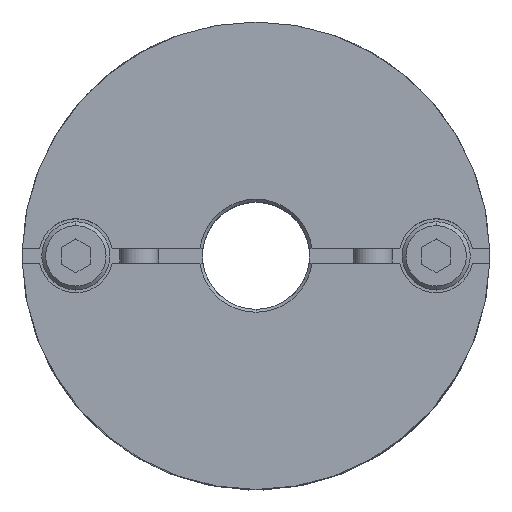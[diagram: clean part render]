
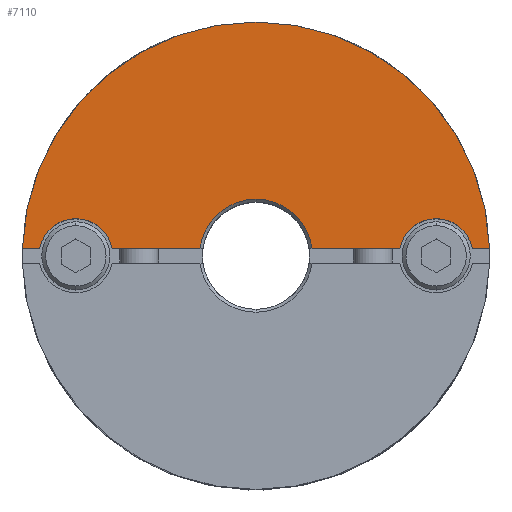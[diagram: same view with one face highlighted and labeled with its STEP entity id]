
A CAD part, top view. The second image highlights one B-rep face of the part: STEP entity #7110.
In plain terms, the highlighted planar face has unit normal (0, 0, 1).
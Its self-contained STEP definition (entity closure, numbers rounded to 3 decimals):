
#553=CARTESIAN_POINT('',(0.,5.8,19.3));
#554=VERTEX_POINT('',#553);
#563=CARTESIAN_POINT('',(-5.751,0.75,19.3));
#564=VERTEX_POINT('',#563);
#565=CARTESIAN_POINT('',(0.,0.,19.3));
#566=DIRECTION('',(0.0,0.0,1.0));
#567=DIRECTION('',(0.0,-1.0,0.0));
#568=AXIS2_PLACEMENT_3D('',#565,#566,#567);
#569=CIRCLE('',#568,5.8);
#570=EDGE_CURVE('',#554,#564,#569,.T.);
#742=CARTESIAN_POINT('',(0.,24.,19.3));
#743=VERTEX_POINT('',#742);
#827=CARTESIAN_POINT('',(-23.988,0.75,19.3));
#828=VERTEX_POINT('',#827);
#835=CARTESIAN_POINT('',(0.,0.,19.3));
#836=DIRECTION('',(0.0,0.0,-1.0));
#837=DIRECTION('',(0.0,1.0,0.0));
#838=AXIS2_PLACEMENT_3D('',#835,#836,#837);
#839=CIRCLE('',#838,24.0);
#840=EDGE_CURVE('',#828,#743,#839,.T.);
#1041=CARTESIAN_POINT('',(-18.5,3.8,19.3));
#1042=VERTEX_POINT('',#1041);
#1051=CARTESIAN_POINT('',(-22.225,0.75,19.3));
#1052=VERTEX_POINT('',#1051);
#1053=CARTESIAN_POINT('',(-18.5,0.,19.3));
#1054=DIRECTION('',(0.0,0.0,-1.0));
#1055=DIRECTION('',(0.0,1.0,0.0));
#1056=AXIS2_PLACEMENT_3D('',#1053,#1054,#1055);
#1057=CIRCLE('',#1056,3.8);
#1058=EDGE_CURVE('',#1052,#1042,#1057,.T.);
#1125=CARTESIAN_POINT('',(18.5,3.8,19.3));
#1126=VERTEX_POINT('',#1125);
#1135=CARTESIAN_POINT('',(14.775,0.75,19.3));
#1136=VERTEX_POINT('',#1135);
#1137=CARTESIAN_POINT('',(18.5,0.,19.3));
#1138=DIRECTION('',(0.0,0.0,-1.0));
#1139=DIRECTION('',(0.0,1.0,0.0));
#1140=AXIS2_PLACEMENT_3D('',#1137,#1138,#1139);
#1141=CIRCLE('',#1140,3.8);
#1142=EDGE_CURVE('',#1136,#1126,#1141,.T.);
#6786=CARTESIAN_POINT('',(22.225,0.75,19.3));
#6787=VERTEX_POINT('',#6786);
#6794=CARTESIAN_POINT('',(18.5,0.,19.3));
#6795=DIRECTION('',(0.0,0.0,-1.0));
#6796=DIRECTION('',(0.0,1.0,0.0));
#6797=AXIS2_PLACEMENT_3D('',#6794,#6795,#6796);
#6798=CIRCLE('',#6797,3.8);
#6799=EDGE_CURVE('',#1126,#6787,#6798,.T.);
#6852=CARTESIAN_POINT('',(-14.775,0.75,19.3));
#6853=VERTEX_POINT('',#6852);
#6860=CARTESIAN_POINT('',(-18.5,0.,19.3));
#6861=DIRECTION('',(0.0,0.0,-1.0));
#6862=DIRECTION('',(0.0,1.0,0.0));
#6863=AXIS2_PLACEMENT_3D('',#6860,#6861,#6862);
#6864=CIRCLE('',#6863,3.8);
#6865=EDGE_CURVE('',#1042,#6853,#6864,.T.);
#6884=CARTESIAN_POINT('',(23.988,0.75,19.3));
#6885=VERTEX_POINT('',#6884);
#6892=CARTESIAN_POINT('',(22.225,0.75,19.3));
#6893=DIRECTION('',(1.0,0.0,0.0));
#6894=VECTOR('',#6893,1.763);
#6895=LINE('',#6892,#6894);
#6896=EDGE_CURVE('',#6787,#6885,#6895,.T.);
#6907=CARTESIAN_POINT('',(5.751,0.75,19.3));
#6908=VERTEX_POINT('',#6907);
#6909=CARTESIAN_POINT('',(5.751,0.75,19.3));
#6910=DIRECTION('',(1.0,0.0,0.0));
#6911=VECTOR('',#6910,9.023);
#6912=LINE('',#6909,#6911);
#6913=EDGE_CURVE('',#6908,#1136,#6912,.T.);
#7069=CARTESIAN_POINT('',(0.,2.182,19.3));
#7070=DIRECTION('',(0.0,0.0,1.0));
#7071=DIRECTION('',(0.0,1.0,0.0));
#7072=AXIS2_PLACEMENT_3D('',#7069,#7070,#7071);
#7073=PLANE('',#7072);
#7074=ORIENTED_EDGE('',*,*,#1142,.T.);
#7075=ORIENTED_EDGE('',*,*,#6799,.T.);
#7076=ORIENTED_EDGE('',*,*,#6896,.T.);
#7077=CARTESIAN_POINT('',(0.,0.,19.3));
#7078=DIRECTION('',(0.0,0.0,-1.0));
#7079=DIRECTION('',(0.0,1.0,0.0));
#7080=AXIS2_PLACEMENT_3D('',#7077,#7078,#7079);
#7081=CIRCLE('',#7080,24.0);
#7082=EDGE_CURVE('',#743,#6885,#7081,.T.);
#7083=ORIENTED_EDGE('',*,*,#7082,.F.);
#7084=ORIENTED_EDGE('',*,*,#840,.F.);
#7085=CARTESIAN_POINT('',(-23.988,0.75,19.3));
#7086=DIRECTION('',(1.0,0.0,0.0));
#7087=VECTOR('',#7086,1.763);
#7088=LINE('',#7085,#7087);
#7089=EDGE_CURVE('',#828,#1052,#7088,.T.);
#7090=ORIENTED_EDGE('',*,*,#7089,.T.);
#7091=ORIENTED_EDGE('',*,*,#1058,.T.);
#7092=ORIENTED_EDGE('',*,*,#6865,.T.);
#7093=CARTESIAN_POINT('',(-14.775,0.75,19.3));
#7094=DIRECTION('',(1.0,0.0,0.0));
#7095=VECTOR('',#7094,9.023);
#7096=LINE('',#7093,#7095);
#7097=EDGE_CURVE('',#6853,#564,#7096,.T.);
#7098=ORIENTED_EDGE('',*,*,#7097,.T.);
#7099=ORIENTED_EDGE('',*,*,#570,.F.);
#7100=CARTESIAN_POINT('',(0.,0.,19.3));
#7101=DIRECTION('',(0.0,0.0,1.0));
#7102=DIRECTION('',(0.0,-1.0,0.0));
#7103=AXIS2_PLACEMENT_3D('',#7100,#7101,#7102);
#7104=CIRCLE('',#7103,5.8);
#7105=EDGE_CURVE('',#6908,#554,#7104,.T.);
#7106=ORIENTED_EDGE('',*,*,#7105,.F.);
#7107=ORIENTED_EDGE('',*,*,#6913,.T.);
#7108=EDGE_LOOP('',(#7074,#7075,#7076,#7083,#7084,#7090,#7091,#7092,#7098,#7099,#7106,#7107));
#7109=FACE_OUTER_BOUND('',#7108,.T.);
#7110=ADVANCED_FACE('',(#7109),#7073,.T.);
